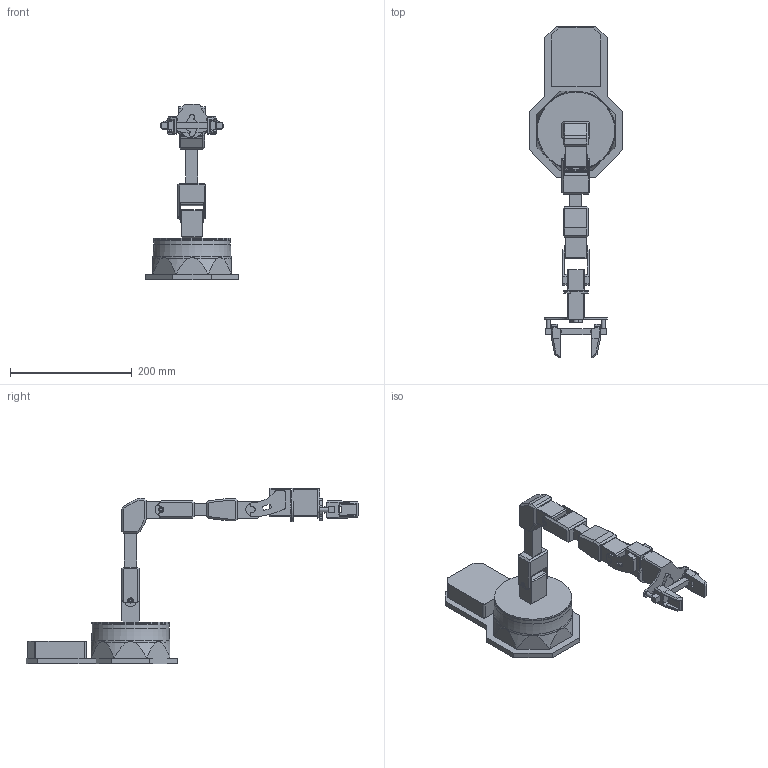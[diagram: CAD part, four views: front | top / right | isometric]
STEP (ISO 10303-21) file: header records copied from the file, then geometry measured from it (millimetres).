
FILE_DESCRIPTION(/* description */ (''),/* implementation_level */ '2;1');
FILE_NAME(/* name */ 'C:/Users/TR1/Desktop/3_RXA-150-M/3_RXA-150-M/3 - RXA-150-M.step',/* time_stamp */ '2019-08-28T13:07:34-05:00',/* author */ (''),/* organization */ (''),/* preprocessor_version */ 'ST-DEVELOPER v18',/* originating_system */ 'Autodesk Translation Framework v8.6.0.1094',/* authorisation */ '');
FILE_SCHEMA (('AUTOMOTIVE_DESIGN { 1 0 10303 214 3 1 1 }'));
Length unit declared in the file: millimetre
Products named in the file (9): 3 - RXA-150-M; Base; Skirt-120 v2; Shoulder; UA - 3 - RX-150 v2; Fore - 3 - RX-150 v2; 430 - Wrist v3; SRG v3; SRG Carriage With Finger v3
Assembly tree (9 placements, depth 3):
  3 - RXA-150-M
    Base
      Skirt-120 v2
    Shoulder
    UA - 3 - RX-150 v2
    Fore - 3 - RX-150 v2
    430 - Wrist v3
    SRG v3
    SRG Carriage With Finger v3  x2
Bounding box: 153.07 x 546.09 x 288.72 mm (x, y, z)
Volume: 1302336.8 mm3; surface area: 312954.3 mm2
Topology: 17 solids, 19 shells, 636 faces, 1623 edges, 1041 vertices
Faces by surface type: plane 446, cylinder 140, cone 41, bspline 8, torus 1
Full cylindrical faces by diameter (mm): 3.8 x4, 4.5 x2, 4.9 x2, 6.3 x2, 8 x2, 19.5 x4, 20.5 x2, 40 x1, 94 x1, 120.25 x1, 121 x1, 127 x2
Entity records: 18272 total; most frequent: CARTESIAN_POINT 3917, ORIENTED_EDGE 2932, DIRECTION 2915, EDGE_CURVE 1466, LINE 1033, VECTOR 1033, AXIS2_PLACEMENT_3D 941, VERTEX_POINT 937
